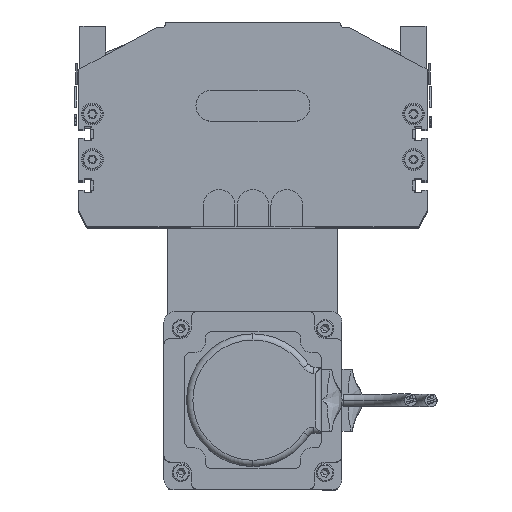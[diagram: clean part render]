
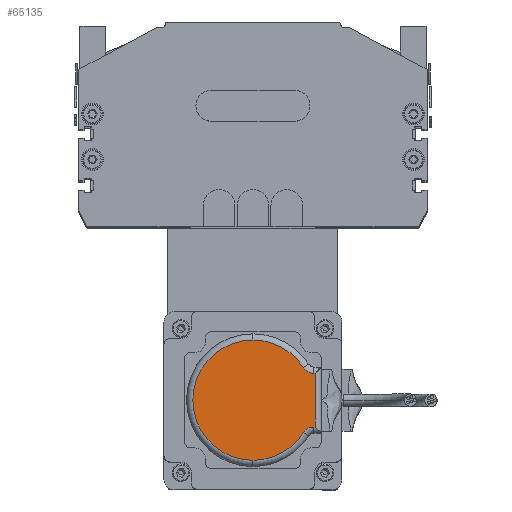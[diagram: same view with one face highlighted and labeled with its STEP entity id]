
A CAD part, top view. The second image highlights one B-rep face of the part: STEP entity #65135.
In plain terms, the highlighted planar face has unit normal (0, 0, 1).
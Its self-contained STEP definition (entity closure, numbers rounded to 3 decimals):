
#65026 = ORIENTED_EDGE ( 'NONE', *, *, #65226, .T. ) ;
#65027 = EDGE_CURVE ( 'NONE', #65079, #65138, #72075, .T. ) ;
#65032 = VERTEX_POINT ( 'NONE', #72070 ) ;
#65075 = ORIENTED_EDGE ( 'NONE', *, *, #65155, .T. ) ;
#65076 = EDGE_CURVE ( 'NONE', #65132, #65179, #72016, .T. ) ;
#65077 = ORIENTED_EDGE ( 'NONE', *, *, #65081, .T. ) ;
#65079 = VERTEX_POINT ( 'NONE', #71994 ) ;
#65080 = ORIENTED_EDGE ( 'NONE', *, *, #65027, .T. ) ;
#65081 = EDGE_CURVE ( 'NONE', #65138, #65193, #71995, .T. ) ;
#65132 = VERTEX_POINT ( 'NONE', #72347 ) ;
#65135 = ADVANCED_FACE ( 'NONE', ( #72318 ), #72317, .T. ) ;
#65136 = ORIENTED_EDGE ( 'NONE', *, *, #65140, .T. ) ;
#65137 = ORIENTED_EDGE ( 'NONE', *, *, #65195, .F. ) ;
#65138 = VERTEX_POINT ( 'NONE', #72339 ) ;
#65140 = EDGE_CURVE ( 'NONE', #65153, #65032, #72313, .T. ) ;
#65152 = VERTEX_POINT ( 'NONE', #72305 ) ;
#65153 = VERTEX_POINT ( 'NONE', #72293 ) ;
#65155 = EDGE_CURVE ( 'NONE', #65152, #65179, #72275, .T. ) ;
#65156 = ORIENTED_EDGE ( 'NONE', *, *, #65169, .T. ) ;
#65157 = ORIENTED_EDGE ( 'NONE', *, *, #65076, .F. ) ;
#65168 = EDGE_LOOP ( 'NONE', ( #65137, #65136, #65156, #65075, #65157, #65026, #65080, #65077 ) ) ;
#65169 = EDGE_CURVE ( 'NONE', #65032, #65152, #72270, .T. ) ;
#65179 = VERTEX_POINT ( 'NONE', #72244 ) ;
#65193 = VERTEX_POINT ( 'NONE', #72203 ) ;
#65195 = EDGE_CURVE ( 'NONE', #65153, #65193, #71951, .T. ) ;
#65226 = EDGE_CURVE ( 'NONE', #65132, #65079, #72454, .T. ) ;
#71950 = CARTESIAN_POINT ( 'NONE',  ( 14., 62.394, 26. ) ) ;
#71951 = CIRCLE ( 'NONE', #71988, 6. ) ;
#71954 = DIRECTION ( 'NONE',  ( 0., -1., 0. ) ) ;
#71986 = DIRECTION ( 'NONE',  ( 1., 0., 0. ) ) ;
#71987 = DIRECTION ( 'NONE',  ( 0., 0., 1. ) ) ;
#71988 = AXIS2_PLACEMENT_3D ( 'NONE', #71950, #71987, #71986 ) ;
#71990 = CARTESIAN_POINT ( 'NONE',  ( 20., 33., 26. ) ) ;
#71991 = DIRECTION ( 'NONE',  ( 1., 0., 0. ) ) ;
#71992 = DIRECTION ( 'NONE',  ( 0., 0., 1. ) ) ;
#71993 = AXIS2_PLACEMENT_3D ( 'NONE', #72007, #71992, #71991 ) ;
#71994 = CARTESIAN_POINT ( 'NONE',  ( 46., 63., 26. ) ) ;
#71995 = LINE ( 'NONE', #71990, #72017 ) ;
#72007 = CARTESIAN_POINT ( 'NONE',  ( 52., 62.394, 26. ) ) ;
#72016 = CIRCLE ( 'NONE', #71993, 6. ) ;
#72017 = VECTOR ( 'NONE', #71954, 1000. ) ;
#72070 = CARTESIAN_POINT ( 'NONE',  ( 4., 33., 26. ) ) ;
#72071 = DIRECTION ( 'NONE',  ( -1., 0., 0. ) ) ;
#72072 = VECTOR ( 'NONE', #72071, 1000. ) ;
#72073 = CARTESIAN_POINT ( 'NONE',  ( 17.5, 63., 26. ) ) ;
#72075 = LINE ( 'NONE', #72073, #72072 ) ;
#72180 = DIRECTION ( 'NONE',  ( 1., 0., 0. ) ) ;
#72181 = DIRECTION ( 'NONE',  ( 0., 0., 1. ) ) ;
#72203 = CARTESIAN_POINT ( 'NONE',  ( 20., 62.394, 26. ) ) ;
#72244 = CARTESIAN_POINT ( 'NONE',  ( 48.743, 57.355, 26. ) ) ;
#72256 = AXIS2_PLACEMENT_3D ( 'NONE', #72269, #72181, #72180 ) ;
#72269 = CARTESIAN_POINT ( 'NONE',  ( 33., 33., 26. ) ) ;
#72270 = CIRCLE ( 'NONE', #72256, 29. ) ;
#72271 = DIRECTION ( 'NONE',  ( 1., 0., 0. ) ) ;
#72272 = DIRECTION ( 'NONE',  ( 0., 0., 1. ) ) ;
#72273 = CARTESIAN_POINT ( 'NONE',  ( 33., 33., 26. ) ) ;
#72274 = AXIS2_PLACEMENT_3D ( 'NONE', #72273, #72272, #72271 ) ;
#72275 = CIRCLE ( 'NONE', #72274, 29. ) ;
#72293 = CARTESIAN_POINT ( 'NONE',  ( 17.257, 57.355, 26. ) ) ;
#72305 = CARTESIAN_POINT ( 'NONE',  ( 62., 33., 26. ) ) ;
#72306 = DIRECTION ( 'NONE',  ( 1., 0., 0. ) ) ;
#72307 = DIRECTION ( 'NONE',  ( 0., 0., 1. ) ) ;
#72308 = CARTESIAN_POINT ( 'NONE',  ( 33., 33., 26. ) ) ;
#72309 = AXIS2_PLACEMENT_3D ( 'NONE', #72308, #72307, #72306 ) ;
#72313 = CIRCLE ( 'NONE', #72309, 29. ) ;
#72314 = DIRECTION ( 'NONE',  ( 1., 0., 0. ) ) ;
#72317 = PLANE ( 'NONE',  #72332 ) ;
#72318 = FACE_OUTER_BOUND ( 'NONE', #65168, .T. ) ;
#72321 = DIRECTION ( 'NONE',  ( 0., 0., 1. ) ) ;
#72322 = CARTESIAN_POINT ( 'NONE',  ( 33., 33., 26. ) ) ;
#72332 = AXIS2_PLACEMENT_3D ( 'NONE', #72322, #72321, #72314 ) ;
#72339 = CARTESIAN_POINT ( 'NONE',  ( 20., 63., 26. ) ) ;
#72347 = CARTESIAN_POINT ( 'NONE',  ( 46., 62.394, 26. ) ) ;
#72452 = VECTOR ( 'NONE', #72522, 1000. ) ;
#72453 = CARTESIAN_POINT ( 'NONE',  ( 46., 33., 26. ) ) ;
#72454 = LINE ( 'NONE', #72453, #72452 ) ;
#72522 = DIRECTION ( 'NONE',  ( 0., 1., 0. ) ) ;
